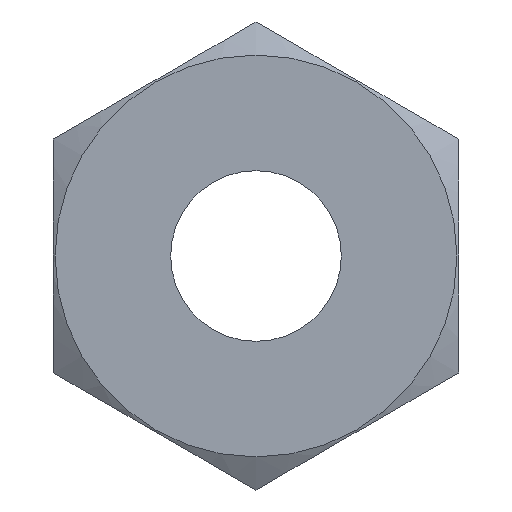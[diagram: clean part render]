
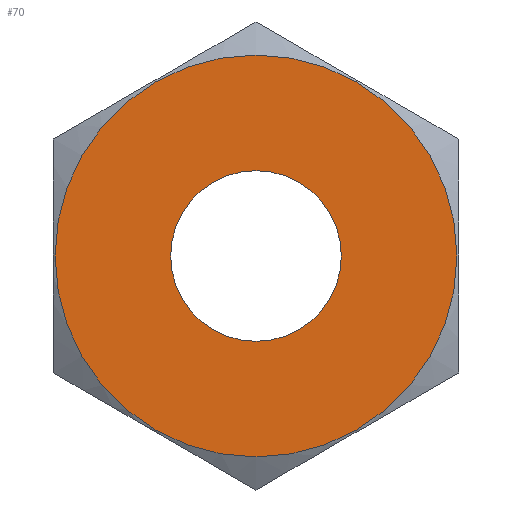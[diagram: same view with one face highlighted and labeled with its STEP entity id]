
A CAD part, left-side view. The second image highlights one B-rep face of the part: STEP entity #70.
In plain terms, the highlighted planar face has unit normal (-1, 0, 0).
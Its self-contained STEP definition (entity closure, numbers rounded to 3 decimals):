
#70 = ADVANCED_FACE( '', ( #143, #144 ), #145, .T. );
#143 = FACE_BOUND( '', #208, .T. );
#144 = FACE_OUTER_BOUND( '', #209, .T. );
#145 = PLANE( '', #210 );
#208 = EDGE_LOOP( '', ( #325 ) );
#209 = EDGE_LOOP( '', ( #326 ) );
#210 = AXIS2_PLACEMENT_3D( '', #327, #328, #329 );
#325 = ORIENTED_EDGE( '', *, *, #368, .F. );
#326 = ORIENTED_EDGE( '', *, *, #341, .T. );
#327 = CARTESIAN_POINT( '', ( -16.5, -9.5, -5.485 ) );
#328 = DIRECTION( '', ( -1., 0., 0. ) );
#329 = DIRECTION( '', ( 0., -1., 0. ) );
#341 = EDGE_CURVE( '', #392, #392, #393, .T. );
#368 = EDGE_CURVE( '', #431, #431, #432, .T. );
#392 = VERTEX_POINT( '', #535 );
#393 = CIRCLE( '', #536, 9.42 );
#431 = VERTEX_POINT( '', #633 );
#432 = CIRCLE( '', #634, 4. );
#535 = CARTESIAN_POINT( '', ( -16.5, 0., 9.42 ) );
#536 = AXIS2_PLACEMENT_3D( '', #641, #642, #643 );
#633 = CARTESIAN_POINT( '', ( -16.5, -4., 0. ) );
#634 = AXIS2_PLACEMENT_3D( '', #669, #670, #671 );
#641 = CARTESIAN_POINT( '', ( -16.5, 0., 0. ) );
#642 = DIRECTION( '', ( -1., 0., 0. ) );
#643 = DIRECTION( '', ( 0., 0., 1. ) );
#669 = CARTESIAN_POINT( '', ( -16.5, 0., 0. ) );
#670 = DIRECTION( '', ( -1., 0., 0. ) );
#671 = DIRECTION( '', ( 0., -1., 0. ) );
